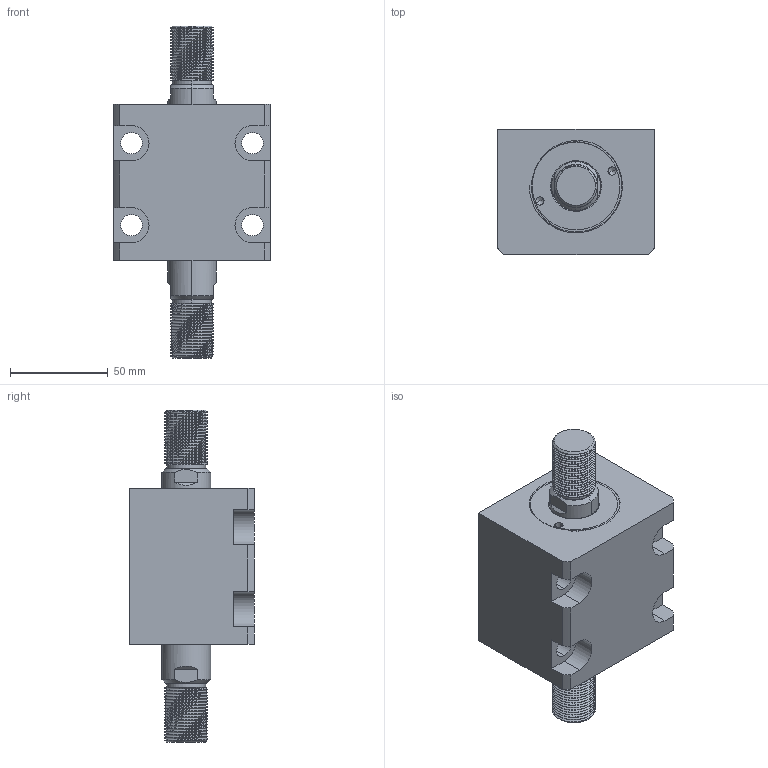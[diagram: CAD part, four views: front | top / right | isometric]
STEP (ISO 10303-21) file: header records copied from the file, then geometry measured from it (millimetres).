
FILE_DESCRIPTION (( 'STEP AP214' ), '1' );
FILE_NAME ('chtb-lwm40x10w_asm.STEP', '2018-05-31T00:30:04', ( 'Windows' ), ( 'Microsoft' ), 'SwSTEP 2.0', 'SolidWorks 2015', '' );
FILE_SCHEMA (( 'AUTOMOTIVE_DESIGN' ));
Length unit declared in the file: millimetre
Products named in the file (4): CHTB-SD40QG; CHTB-LWM40X10NBT; chtb-lwm40x10w_asm; CHTB-SW40X10NHSG
Assembly tree (3 placements, depth 2):
  chtb-lwm40x10w_asm
    CHTB-LWM40X10NBT
    CHTB-SD40QG
    CHTB-SW40X10NHSG
Bounding box: 80 x 64 x 170 mm (x, y, z)
Volume: 401237.5 mm3; surface area: 78855.2 mm2
Topology: 3 solids, 3 shells, 241 faces, 672 edges, 447 vertices
Faces by surface type: cylinder 149, plane 49, bspline 18, cone 13, torus 12
Entity records: 17006 total; most frequent: CARTESIAN_POINT 11203, ORIENTED_EDGE 1332, DIRECTION 1035, EDGE_CURVE 666, VERTEX_POINT 447, AXIS2_PLACEMENT_3D 401, EDGE_LOOP 273, ADVANCED_FACE 241
